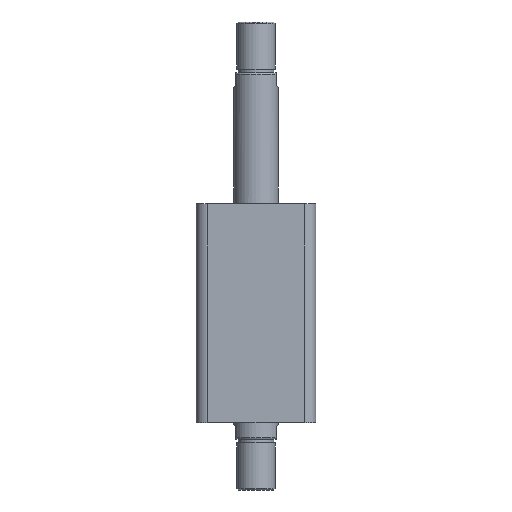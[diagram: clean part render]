
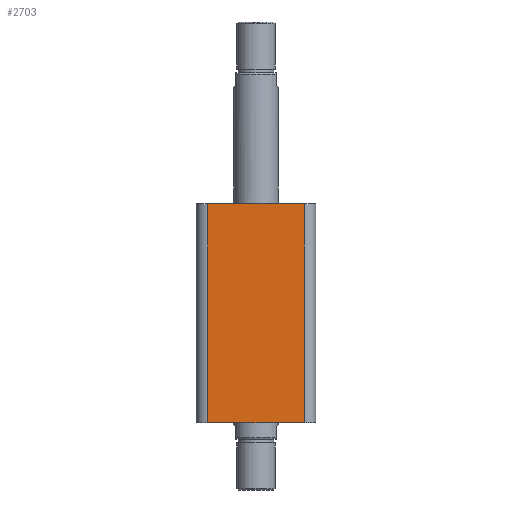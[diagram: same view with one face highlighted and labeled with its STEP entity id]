
A CAD part, front view. The second image highlights one B-rep face of the part: STEP entity #2703.
In plain terms, the highlighted planar face has unit normal (0, -1, 0).
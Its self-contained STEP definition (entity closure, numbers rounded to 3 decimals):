
#397 = ORIENTED_EDGE ( 'NONE', *, *, #1211, .F. ) ;
#398 = ORIENTED_EDGE ( 'NONE', *, *, #1212, .T. ) ;
#399 = ORIENTED_EDGE ( 'NONE', *, *, #1213, .T. ) ;
#400 = ORIENTED_EDGE ( 'NONE', *, *, #1214, .T. ) ;
#570 = EDGE_LOOP ( 'NONE', ( #397, #398, #399, #400 ) ) ;
#758 = VERTEX_POINT ( 'NONE', #3382 ) ;
#847 = VERTEX_POINT ( 'NONE', #2788 ) ;
#848 = VERTEX_POINT ( 'NONE', #2778 ) ;
#849 = VERTEX_POINT ( 'NONE', #2786 ) ;
#995 = LINE ( 'NONE', #2095, #1008 ) ;
#1001 = LINE ( 'NONE', #2114, #1004 ) ;
#1003 = LINE ( 'NONE', #2116, #1006 ) ;
#1004 = VECTOR ( 'NONE', #2115, 1000. ) ;
#1006 = VECTOR ( 'NONE', #2117, 1000. ) ;
#1007 = LINE ( 'NONE', #2119, #1010 ) ;
#1008 = VECTOR ( 'NONE', #2118, 1000. ) ;
#1010 = VECTOR ( 'NONE', #2120, 1000. ) ;
#1211 = EDGE_CURVE ( 'NONE', #758, #847, #1001, .T. ) ;
#1212 = EDGE_CURVE ( 'NONE', #758, #848, #1003, .T. ) ;
#1213 = EDGE_CURVE ( 'NONE', #848, #849, #995, .T. ) ;
#1214 = EDGE_CURVE ( 'NONE', #849, #847, #1007, .T. ) ;
#1772 = CARTESIAN_POINT ( 'NONE',  ( -47., -47., 172. ) ) ;
#1774 = PLANE ( 'NONE',  #2510 ) ;
#1776 = DIRECTION ( 'NONE',  ( 0., 1., 0. ) ) ;
#1777 = DIRECTION ( 'NONE',  ( 0., 0., 1. ) ) ;
#2095 = CARTESIAN_POINT ( 'NONE',  ( -47., -47., 0. ) ) ;
#2114 = CARTESIAN_POINT ( 'NONE',  ( -47., -47., 172. ) ) ;
#2115 = DIRECTION ( 'NONE',  ( 1., 0., 0. ) ) ;
#2116 = CARTESIAN_POINT ( 'NONE',  ( -38., -47., 172. ) ) ;
#2117 = DIRECTION ( 'NONE',  ( 0., 0., -1. ) ) ;
#2118 = DIRECTION ( 'NONE',  ( 1., 0., 0. ) ) ;
#2119 = CARTESIAN_POINT ( 'NONE',  ( 38., -47., 172. ) ) ;
#2120 = DIRECTION ( 'NONE',  ( 0., 0., 1. ) ) ;
#2510 = AXIS2_PLACEMENT_3D ( 'NONE', #1772, #1776, #1777 ) ;
#2703 = ADVANCED_FACE ( 'NONE', ( #3090 ), #1774, .F. ) ;
#2778 = CARTESIAN_POINT ( 'NONE',  ( -38., -47., 0. ) ) ;
#2786 = CARTESIAN_POINT ( 'NONE',  ( 38., -47., 0. ) ) ;
#2788 = CARTESIAN_POINT ( 'NONE',  ( 38., -47., 172. ) ) ;
#3090 = FACE_OUTER_BOUND ( 'NONE', #570, .T. ) ;
#3382 = CARTESIAN_POINT ( 'NONE',  ( -38., -47., 172. ) ) ;
